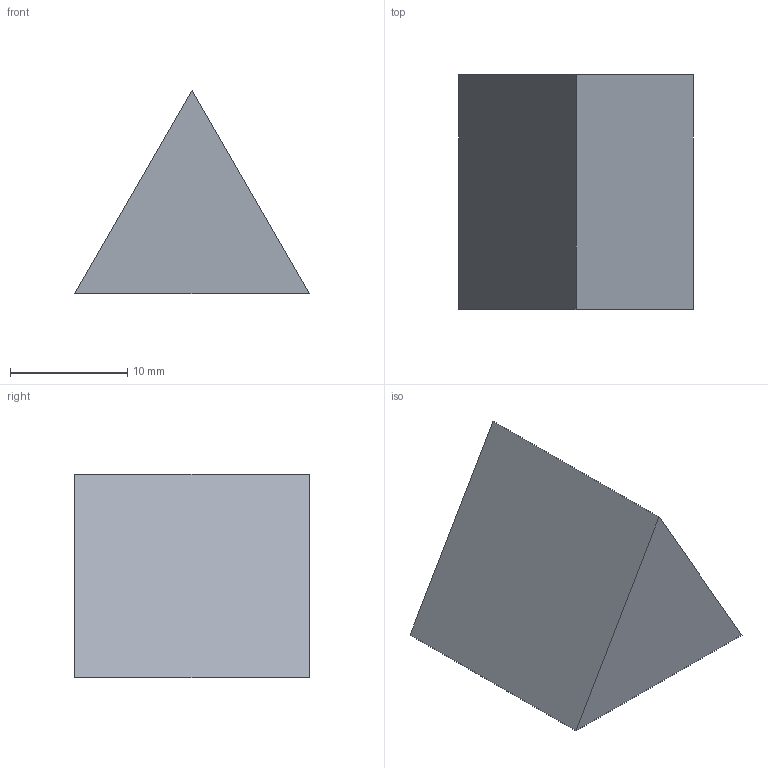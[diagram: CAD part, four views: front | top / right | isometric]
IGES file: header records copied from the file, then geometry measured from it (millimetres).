
Global section: file name: No Iges File Name specified; native system: AutoDesk Inventor R12.0; preprocessor: AutoDesk Inventor Iges Exporter R12.0; date: 20090527.140647; units: millimetre
Bounding box: 20 x 20 x 17.32 mm (x, y, z)
Volume: 3464.1 mm3; surface area: 1546.4 mm2
Topology: 1 solids, 1 shells, 5 faces, 9 edges, 6 vertices
Faces by surface type: plane 5
